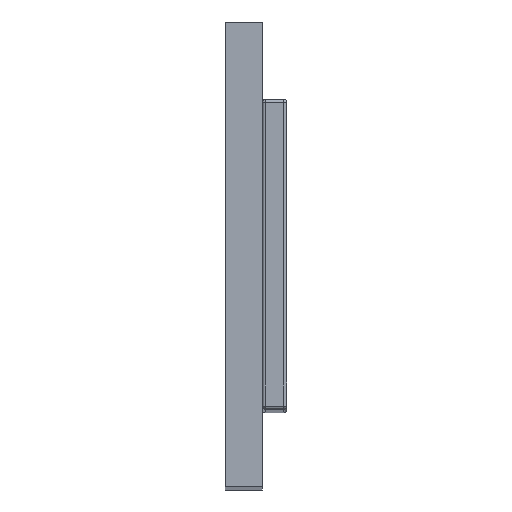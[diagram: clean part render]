
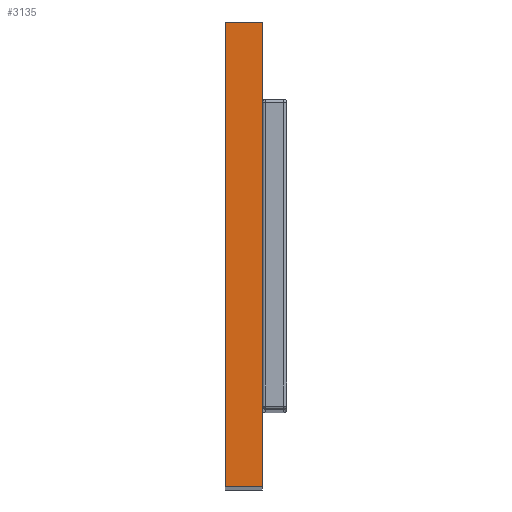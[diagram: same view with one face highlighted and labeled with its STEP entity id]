
A CAD part, top view. The second image highlights one B-rep face of the part: STEP entity #3135.
In plain terms, the highlighted planar face has unit normal (0, 0, 1).
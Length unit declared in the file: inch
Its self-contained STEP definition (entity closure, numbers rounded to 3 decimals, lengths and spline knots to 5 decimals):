
#31 = CARTESIAN_POINT ( 'NONE',  ( 0., 0., 12.59843 ) ) ;
#46 = CARTESIAN_POINT ( 'NONE',  ( 0.23622, 0., 12.59843 ) ) ;
#577 = DIRECTION ( 'NONE',  ( -1., 0., 0. ) ) ;
#680 = VECTOR ( 'NONE', #1646, 39.37008 ) ;
#1054 = ORIENTED_EDGE ( 'NONE', *, *, #3318, .F. ) ;
#1253 = CARTESIAN_POINT ( 'NONE',  ( 0.23622, 0., 12.59843 ) ) ;
#1322 = CARTESIAN_POINT ( 'NONE',  ( 0., 0., 12.59843 ) ) ;
#1617 = LINE ( 'NONE', #1253, #2217 ) ;
#1646 = DIRECTION ( 'NONE',  ( 1., 0., 0. ) ) ;
#1878 = LINE ( 'NONE', #1322, #2902 ) ;
#2123 = VERTEX_POINT ( 'NONE', #6602 ) ;
#2124 = LINE ( 'NONE', #31, #680 ) ;
#2217 = VECTOR ( 'NONE', #6719, 39.37008 ) ;
#2282 = EDGE_LOOP ( 'NONE', ( #4788, #5834, #1054, #6066 ) ) ;
#2304 = DIRECTION ( 'NONE',  ( 0., -1., 0. ) ) ;
#2800 = PLANE ( 'NONE',  #6842 ) ;
#2862 = CARTESIAN_POINT ( 'NONE',  ( 0., 2.95276, 12.59843 ) ) ;
#2902 = VECTOR ( 'NONE', #2304, 39.37008 ) ;
#3135 = ADVANCED_FACE ( 'NONE', ( #4128 ), #2800, .F. ) ;
#3318 = EDGE_CURVE ( 'NONE', #4431, #4225, #3546, .T. ) ;
#3546 = LINE ( 'NONE', #2862, #6998 ) ;
#3833 = CARTESIAN_POINT ( 'NONE',  ( 0., 0., 12.59843 ) ) ;
#3878 = DIRECTION ( 'NONE',  ( 0., 0., -1. ) ) ;
#3884 = DIRECTION ( 'NONE',  ( 1., 0., 0. ) ) ;
#4128 = FACE_OUTER_BOUND ( 'NONE', #2282, .T. ) ;
#4131 = VERTEX_POINT ( 'NONE', #46 ) ;
#4225 = VERTEX_POINT ( 'NONE', #5599 ) ;
#4431 = VERTEX_POINT ( 'NONE', #4503 ) ;
#4503 = CARTESIAN_POINT ( 'NONE',  ( 0., 2.95276, 12.59843 ) ) ;
#4788 = ORIENTED_EDGE ( 'NONE', *, *, #7003, .T. ) ;
#5599 = CARTESIAN_POINT ( 'NONE',  ( 0.23622, 2.95276, 12.59843 ) ) ;
#5834 = ORIENTED_EDGE ( 'NONE', *, *, #6440, .F. ) ;
#6066 = ORIENTED_EDGE ( 'NONE', *, *, #6430, .T. ) ;
#6430 = EDGE_CURVE ( 'NONE', #4431, #2123, #1878, .T. ) ;
#6440 = EDGE_CURVE ( 'NONE', #4225, #4131, #1617, .T. ) ;
#6602 = CARTESIAN_POINT ( 'NONE',  ( 0., 0., 12.59843 ) ) ;
#6719 = DIRECTION ( 'NONE',  ( 0., -1., 0. ) ) ;
#6842 = AXIS2_PLACEMENT_3D ( 'NONE', #3833, #3878, #577 ) ;
#6998 = VECTOR ( 'NONE', #3884, 39.37008 ) ;
#7003 = EDGE_CURVE ( 'NONE', #2123, #4131, #2124, .T. ) ;
